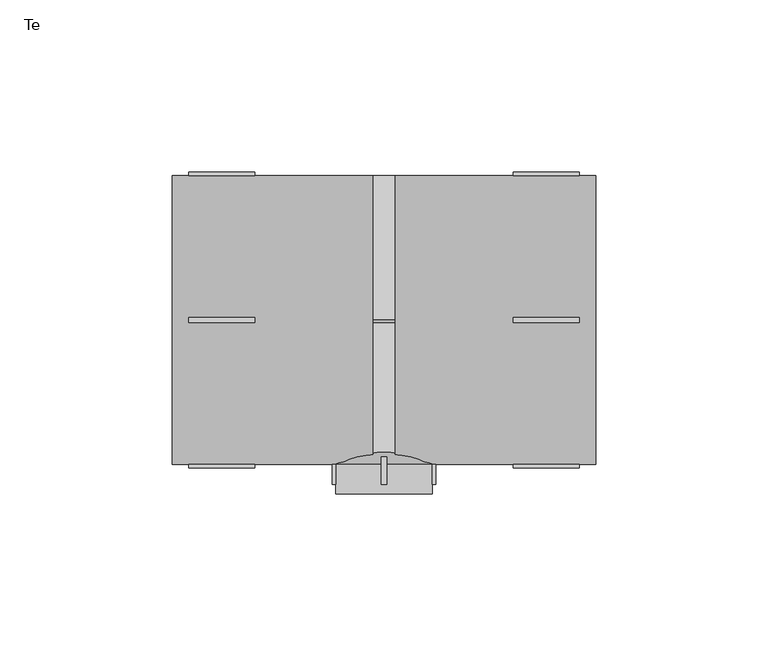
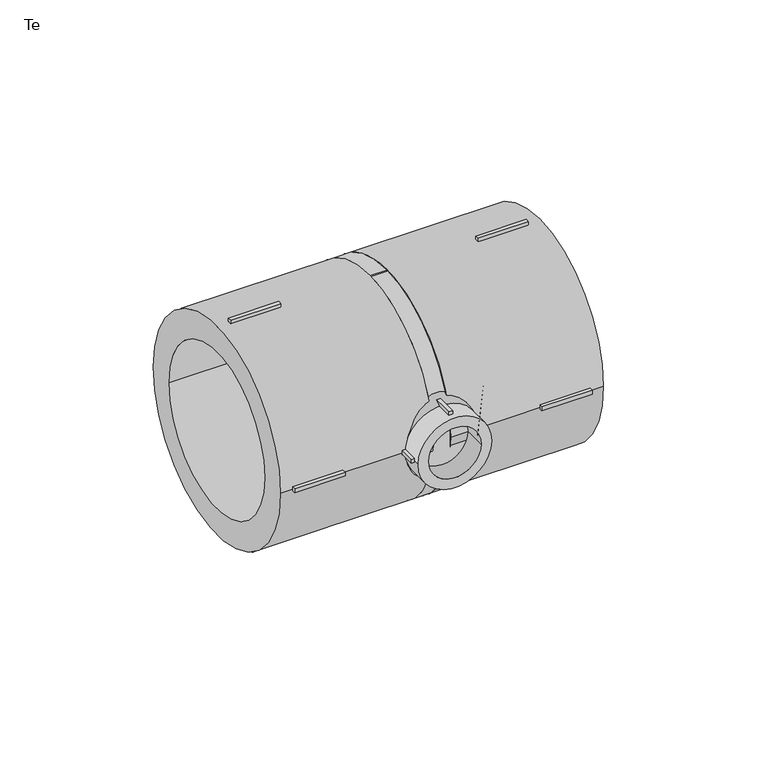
"""IFC4 building model written with IfcOpenShell, lengths in millimetres: pipe fitting geometry, EGB_VASEN_ PPR_Te WXR300_Te reducida WXR310 : Te."""

from ifc_helpers import new_model, si_unit, point, frame, origin, origin_2d, place, context, project, spatial, polyline, circle_curve, trimmed, segment, composite_curve, outline, extrude, source, transform, mapped, element, save
from ifc_brep_helpers import plane_surface, revolved_surface, advanced_brep


def te_85a59c84(model_context):
    return source(origin(), model_context, "Body", "SolidModel", [
        extrude(outline(polyline([(-0.75, -36.5), (0.75, -36.5), (0.75, -47.7), (-0.75, -47.7), (-0.75, -36.5)])), frame((0.0, 0.0, 13.0), z_axis=(0.0, 0.0, 1.0), x_axis=(1.0, 0.0, 0.0)), (0.0, 0.0, 1.0), 2.0),
        extrude(outline(polyline([(-0.75, -36.5), (0.75, -36.5), (0.75, -47.7), (-0.75, -47.7), (-0.75, -36.5)])), frame((0.0, 0.0, -15.0), z_axis=(0.0, 0.0, 1.0), x_axis=(1.0, 0.0, 0.0)), (0.0, 0.0, 1.0), 2.0),
        extrude(outline(polyline([(13.0, -36.5), (15.0, -36.5), (15.0, -47.7), (13.0, -47.7), (13.0, -36.5)])), frame((0.0, 0.0, -0.75), z_axis=(0.0, 0.0, 1.0), x_axis=(1.0, 0.0, 0.0)), (0.0, 0.0, 1.0), 1.5),
        extrude(outline(polyline([(-15.0, -36.5), (-13.0, -36.5), (-13.0, -47.7), (-15.0, -47.7), (-15.0, -36.5)])), frame((0.0, 0.0, -0.75), z_axis=(0.0, 0.0, 1.0), x_axis=(1.0, 0.0, 0.0)), (0.0, 0.0, 1.0), 1.5),
        extrude(outline(polyline([(37.5, -0.75), (37.5, 0.75), (56.7, 0.75), (56.7, -0.75), (37.5, -0.75)])), frame((0.0, 0.0, 41.0), z_axis=(0.0, 0.0, 1.0), x_axis=(1.0, 0.0, 0.0)), (0.0, 0.0, 1.0), 2.0),
        extrude(outline(polyline([(37.5, -0.75), (37.5, 0.75), (56.7, 0.75), (56.7, -0.75), (37.5, -0.75)])), frame((0.0, 0.0, -43.0), z_axis=(0.0, 0.0, 1.0), x_axis=(1.0, 0.0, 0.0)), (0.0, 0.0, 1.0), 2.0),
        extrude(outline(polyline([(37.5, 41.0), (37.5, 43.0), (56.7, 43.0), (56.7, 41.0), (37.5, 41.0)])), frame((0.0, 0.0, -0.75), z_axis=(0.0, 0.0, 1.0), x_axis=(1.0, 0.0, 0.0)), (0.0, 0.0, 1.0), 1.5),
        extrude(outline(polyline([(37.5, -43.0), (37.5, -41.0), (56.7, -41.0), (56.7, -43.0), (37.5, -43.0)])), frame((0.0, 0.0, -0.75), z_axis=(0.0, 0.0, 1.0), x_axis=(1.0, 0.0, 0.0)), (0.0, 0.0, 1.0), 1.5),
        extrude(outline(polyline([(-37.5, 0.75), (-37.5, -0.75), (-56.7, -0.75), (-56.7, 0.75), (-37.5, 0.75)])), frame((0.0, 0.0, 41.0), z_axis=(0.0, 0.0, 1.0), x_axis=(1.0, 0.0, 0.0)), (0.0, 0.0, 1.0), 2.0),
        extrude(outline(polyline([(-37.5, 0.75), (-37.5, -0.75), (-56.7, -0.75), (-56.7, 0.75), (-37.5, 0.75)])), frame((0.0, 0.0, -43.0), z_axis=(0.0, 0.0, 1.0), x_axis=(1.0, 0.0, 0.0)), (0.0, 0.0, 1.0), 2.0),
        extrude(outline(polyline([(-37.5, 43.0), (-37.5, 41.0), (-56.7, 41.0), (-56.7, 43.0), (-37.5, 43.0)])), frame((0.0, 0.0, -0.75), z_axis=(0.0, 0.0, 1.0), x_axis=(1.0, 0.0, 0.0)), (0.0, 0.0, 1.0), 1.5),
        extrude(outline(polyline([(-37.5, -41.0), (-37.5, -43.0), (-56.7, -43.0), (-56.7, -41.0), (-37.5, -41.0)])), frame((0.0, 0.0, -0.75), z_axis=(0.0, 0.0, 1.0), x_axis=(1.0, 0.0, 0.0)), (0.0, 0.0, 1.0), 1.5),
        extrude(outline(composite_curve([segment(trimmed(circle_curve(origin_2d(), 14.0), [point((0.0, 14.0))], [point((0.0, -14.0))], False, "CARTESIAN"), True, "CONTINUOUS"), segment(trimmed(circle_curve(origin_2d(), 14.0), [point((0.0, -14.0))], [point((0.0, 14.0))], False, "CARTESIAN"), True, "CONTINUOUS")], self_intersect=False), holes=[composite_curve([segment(trimmed(circle_curve(origin_2d(), 10.0), [point((0.0, 10.0))], [point((0.0, -10.0))], True, "CARTESIAN"), True, "CONTINUOUS"), segment(trimmed(circle_curve(origin_2d(), 10.0), [point((0.0, -10.0))], [point((0.0, 10.0))], True, "CARTESIAN"), True, "CONTINUOUS")], self_intersect=False)]), frame((0.0, -50.5, 0.0), z_axis=(0.0, 1.0, 0.0), x_axis=(0.0, 0.0, 1.0)), (0.0, 0.0, 1.0), 8.5),
        extrude(outline(composite_curve([segment(trimmed(circle_curve(origin_2d(), 42.0), [point((-42.0, 0.0))], [point((42.0, 0.0))], False, "CARTESIAN"), True, "CONTINUOUS"), segment(trimmed(circle_curve(origin_2d(), 42.0), [point((42.0, 0.0))], [point((-42.0, 0.0))], False, "CARTESIAN"), True, "CONTINUOUS")], self_intersect=False), holes=[composite_curve([segment(trimmed(circle_curve(origin_2d(), 31.5), [point((-31.5, 0.0))], [point((31.5, 0.0))], True, "CARTESIAN"), True, "CONTINUOUS"), segment(trimmed(circle_curve(origin_2d(), 31.5), [point((31.5, 0.0))], [point((-31.5, 0.0))], True, "CARTESIAN"), True, "CONTINUOUS")], self_intersect=False)]), frame((3.32, 0.0, 0.0), z_axis=(1.0, 0.0, 0.0), x_axis=(0.0, 1.0, 0.0)), (0.0, 0.0, 1.0), 58.18),
        extrude(outline(composite_curve([segment(trimmed(circle_curve(origin_2d(), 42.0), [point((-42.0, 0.0))], [point((42.0, 0.0))], False, "CARTESIAN"), True, "CONTINUOUS"), segment(trimmed(circle_curve(origin_2d(), 42.0), [point((42.0, 0.0))], [point((-42.0, 0.0))], False, "CARTESIAN"), True, "CONTINUOUS")], self_intersect=False), holes=[composite_curve([segment(trimmed(circle_curve(origin_2d(), 31.5), [point((-31.5, 0.0))], [point((31.5, 0.0))], True, "CARTESIAN"), True, "CONTINUOUS"), segment(trimmed(circle_curve(origin_2d(), 31.5), [point((31.5, 0.0))], [point((-31.5, 0.0))], True, "CARTESIAN"), True, "CONTINUOUS")], self_intersect=False)]), frame((-61.5, 0.0, 0.0), z_axis=(1.0, 0.0, 0.0), x_axis=(0.0, 1.0, 0.0)), (0.0, 0.0, 1.0), 58.18),
        advanced_brep(
        [(42.0, 0.0, 0.0), (-42.0, 0.0, 0.0), (14.0, -42.0, 0.0), (-14.0, -42.0, 0.0)],
        [
            (0, 1, circle_curve(frame((0.0, 0.0, 0.0), z_axis=(0.0, 1.0, 0.0), x_axis=(1.0, 0.0, 0.0)), 42.0)),
            (1, 0, circle_curve(frame((0.0, 0.0, 0.0), z_axis=(0.0, 1.0, 0.0), x_axis=(-1.0, 0.0, 0.0)), 42.0)),
            (2, 3, circle_curve(frame((0.0, -42.0, 0.0), z_axis=(0.0, -1.0, 0.0), x_axis=(-1.0, 0.0, 0.0)), 14.0)),
            (3, 2, circle_curve(frame((0.0, -42.0, 0.0), z_axis=(0.0, -1.0, 0.0), x_axis=(1.0, 0.0, 0.0)), 14.0)),
            (3, 1),
            (0, 2),
        ],
        [
            plane_surface(frame((0.0, 0.0, 0.0), z_axis=(0.0, 1.0, 0.0), x_axis=(0.0, 0.0, -1.0))),
            plane_surface(frame((0.0, -42.0, 0.0), z_axis=(0.0, -1.0, 0.0), x_axis=(0.0, 0.0, -1.0))),
            revolved_surface(polyline([(-14.0, -42.0, 0.0), (-42.0, 0.0, 0.0)]), (0.0, -63.0, 0.0), (0.0, 1.0, 0.0)),
            revolved_surface(polyline([(14.0, -42.0, 0.0), (42.0, 0.0, 0.0)]), (0.0, -63.0, 0.0), (0.0, 1.0, 0.0)),
        ],
        [
            (0, [[1, 2]]),
            (1, [[3, 4]]),
            (2, [[-4, 5, -1, 6]]),
            (3, [[-3, -6, -2, -5]]),
        ],
    ),
        extrude(outline(composite_curve([segment(trimmed(circle_curve(origin_2d(), 42.0), [point((-42.0, 0.0))], [point((42.0, 0.0))], False, "CARTESIAN"), True, "CONTINUOUS"), segment(trimmed(circle_curve(origin_2d(), 42.0), [point((42.0, 0.0))], [point((-42.0, 0.0))], False, "CARTESIAN"), True, "CONTINUOUS")], self_intersect=False)), frame((-3.32, 0.0, 0.0), z_axis=(1.0, 0.0, 0.0), x_axis=(0.0, 1.0, 0.0)), (0.0, 0.0, 1.0), 6.64),
    ])


if __name__ == "__main__":
    model = new_model("IFC4")
    model_context = context("Model", 3, world=origin())
    ifc_project = project(units=[si_unit("LENGTHUNIT", "METRE", prefix="MILLI")], contexts=[model_context])
    site = spatial("IfcSite", under=ifc_project)
    building = spatial("IfcBuilding", under=site)
    placement = place(None, origin())
    te_shape = te_85a59c84(model_context)
    element("IfcPipeFitting", 1, ObjectType="EGB_VASEN_ PPR_Te WXR300_Te reducida WXR310 : Te", at=placement, inside=building, context=model_context, shape_type="MappedRepresentation", body=[
        mapped(te_shape, transform((0.0, 0.0, 0.0), x_axis=(1.0, 0.0, 0.0), y_axis=(0.0, 1.0, 0.0), z_axis=(0.0, 0.0, 1.0))),
    ])
    save(model, "model.ifc")
